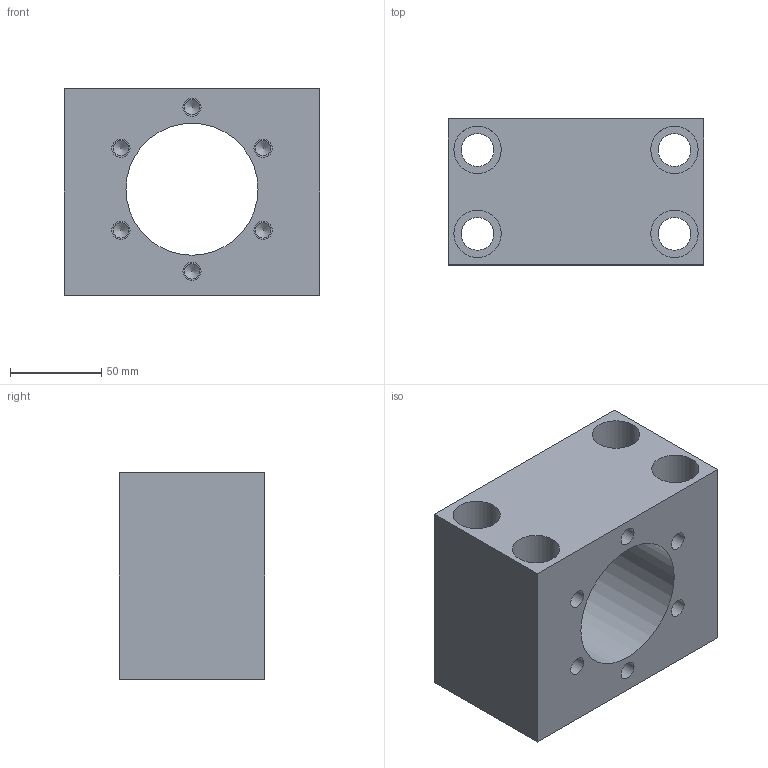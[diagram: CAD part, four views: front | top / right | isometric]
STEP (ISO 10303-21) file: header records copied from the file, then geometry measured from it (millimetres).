
FILE_DESCRIPTION(/* description */ (''),/* implementation_level */ '2;1');
FILE_NAME(/* name */ 'MGS40-2.stp',/* time_stamp */ '2017-01-04T15:44:45+08:00',/* author */ (''),/* organization */ (''),/* preprocessor_version */ 'ST-DEVELOPER v15',/* originating_system */ 'SIEMENS PLM Software NX 8.5',/* authorisation */ '');
FILE_SCHEMA (('AUTOMOTIVE_DESIGN { 1 0 10303 214 3 1 1 1 }'));
Length unit declared in the file: millimetre
Products named in the file (1): Admi05BC77158b48
Bounding box: 140 x 80 x 113 mm (x, y, z)
Volume: 781013.3 mm3; surface area: 112416.6 mm2
Topology: 1 solids, 1 shells, 51 faces, 106 edges, 71 vertices
Faces by surface type: cylinder 25, plane 20, cone 6
Full cylindrical faces by diameter (mm): 8.5 x6, 10 x6, 18 x4, 20 x4, 26 x4, 72.4 x1
Entity records: 1191 total; most frequent: DIRECTION 218, CARTESIAN_POINT 179, ORIENTED_EDGE 124, FACE_BOUND 110, EDGE_LOOP 106, AXIS2_PLACEMENT_3D 103, VERTEX_POINT 64, EDGE_CURVE 62
